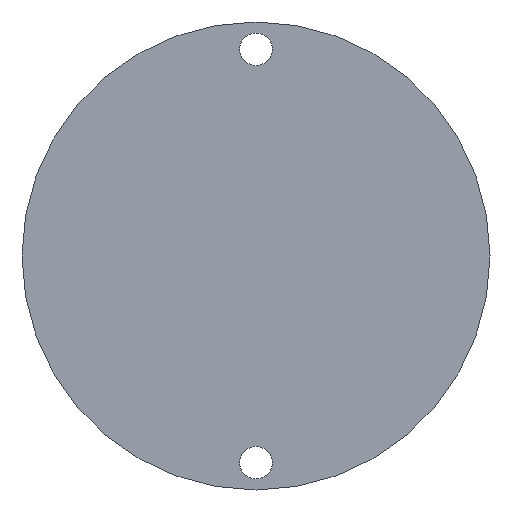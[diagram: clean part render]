
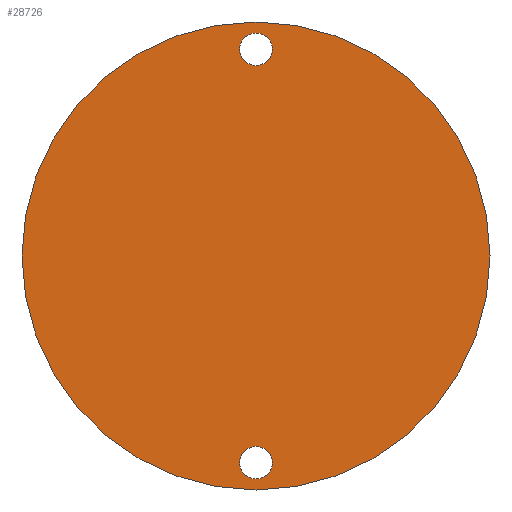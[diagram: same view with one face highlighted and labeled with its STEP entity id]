
A CAD part, front view. The second image highlights one B-rep face of the part: STEP entity #28726.
In plain terms, the highlighted planar face has unit normal (0, -1, 0).
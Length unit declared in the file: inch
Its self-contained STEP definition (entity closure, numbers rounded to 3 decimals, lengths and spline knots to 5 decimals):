
#1125 = CARTESIAN_POINT ( 'NONE',  ( 0., 0., -0.661 ) ) ;
#1134 = AXIS2_PLACEMENT_3D ( 'NONE', #17478, #12342, #2621 ) ;
#1136 = ORIENTED_EDGE ( 'NONE', *, *, #26322, .F. ) ;
#1317 = DIRECTION ( 'NONE',  ( 0., 1., 0. ) ) ;
#1377 = EDGE_CURVE ( 'NONE', #14071, #26169, #10197, .T. ) ;
#1479 = CARTESIAN_POINT ( 'NONE',  ( 0., 0., 0. ) ) ;
#1589 = EDGE_LOOP ( 'NONE', ( #28186, #14532 ) ) ;
#2621 = DIRECTION ( 'NONE',  ( 0., 0., 1. ) ) ;
#3469 = EDGE_CURVE ( 'NONE', #11737, #9586, #23980, .T. ) ;
#4008 = CARTESIAN_POINT ( 'NONE',  ( 0., 0., 0.661 ) ) ;
#5205 = AXIS2_PLACEMENT_3D ( 'NONE', #28307, #16788, #24097 ) ;
#5343 = DIRECTION ( 'NONE',  ( 0., 1., 0. ) ) ;
#5407 = DIRECTION ( 'NONE',  ( 0., 1., 0. ) ) ;
#6944 = EDGE_CURVE ( 'NONE', #28716, #9890, #30555, .T. ) ;
#7467 = DIRECTION ( 'NONE',  ( 0., 0., 1. ) ) ;
#8230 = CARTESIAN_POINT ( 'NONE',  ( 0., 0., -0.81225 ) ) ;
#8410 = AXIS2_PLACEMENT_3D ( 'NONE', #23511, #25859, #30531 ) ;
#9048 = AXIS2_PLACEMENT_3D ( 'NONE', #19493, #5407, #7467 ) ;
#9586 = VERTEX_POINT ( 'NONE', #17614 ) ;
#9890 = VERTEX_POINT ( 'NONE', #19458 ) ;
#10197 = CIRCLE ( 'NONE', #14179, 0.0565 ) ;
#10858 = DIRECTION ( 'NONE',  ( 0., 1., 0. ) ) ;
#11011 = CARTESIAN_POINT ( 'NONE',  ( 0., 0., -0.7175 ) ) ;
#11737 = VERTEX_POINT ( 'NONE', #4008 ) ;
#12342 = DIRECTION ( 'NONE',  ( 0., 1., 0. ) ) ;
#12504 = ORIENTED_EDGE ( 'NONE', *, *, #3469, .T. ) ;
#13533 = PLANE ( 'NONE',  #19979 ) ;
#14071 = VERTEX_POINT ( 'NONE', #22751 ) ;
#14179 = AXIS2_PLACEMENT_3D ( 'NONE', #26727, #5343, #24394 ) ;
#14532 = ORIENTED_EDGE ( 'NONE', *, *, #1377, .T. ) ;
#14832 = ORIENTED_EDGE ( 'NONE', *, *, #17490, .T. ) ;
#15691 = DIRECTION ( 'NONE',  ( 0., 0., 1. ) ) ;
#16416 = CIRCLE ( 'NONE', #26349, 0.0565 ) ;
#16788 = DIRECTION ( 'NONE',  ( 0., 1., 0. ) ) ;
#17478 = CARTESIAN_POINT ( 'NONE',  ( 0., 0., 0. ) ) ;
#17490 = EDGE_CURVE ( 'NONE', #9586, #11737, #25164, .T. ) ;
#17614 = CARTESIAN_POINT ( 'NONE',  ( 0., 0., 0.774 ) ) ;
#18231 = DIRECTION ( 'NONE',  ( 1., 0., 0. ) ) ;
#18706 = EDGE_LOOP ( 'NONE', ( #23177, #1136 ) ) ;
#19458 = CARTESIAN_POINT ( 'NONE',  ( 0., 0., 0.81225 ) ) ;
#19493 = CARTESIAN_POINT ( 'NONE',  ( 0., 0., 0.7175 ) ) ;
#19979 = AXIS2_PLACEMENT_3D ( 'NONE', #1479, #1317, #18231 ) ;
#20411 = FACE_BOUND ( 'NONE', #1589, .T. ) ;
#20566 = FACE_OUTER_BOUND ( 'NONE', #18706, .T. ) ;
#21864 = CIRCLE ( 'NONE', #8410, 0.81225 ) ;
#22751 = CARTESIAN_POINT ( 'NONE',  ( 0., 0., -0.774 ) ) ;
#23177 = ORIENTED_EDGE ( 'NONE', *, *, #6944, .F. ) ;
#23420 = EDGE_LOOP ( 'NONE', ( #14832, #12504 ) ) ;
#23511 = CARTESIAN_POINT ( 'NONE',  ( 0., 0., 0. ) ) ;
#23980 = CIRCLE ( 'NONE', #9048, 0.0565 ) ;
#24097 = DIRECTION ( 'NONE',  ( 0., 0., 1. ) ) ;
#24162 = EDGE_CURVE ( 'NONE', #26169, #14071, #16416, .T. ) ;
#24394 = DIRECTION ( 'NONE',  ( 0., 0., 1. ) ) ;
#25164 = CIRCLE ( 'NONE', #5205, 0.0565 ) ;
#25859 = DIRECTION ( 'NONE',  ( 0., 1., 0. ) ) ;
#26169 = VERTEX_POINT ( 'NONE', #1125 ) ;
#26322 = EDGE_CURVE ( 'NONE', #9890, #28716, #21864, .T. ) ;
#26349 = AXIS2_PLACEMENT_3D ( 'NONE', #11011, #10858, #15691 ) ;
#26727 = CARTESIAN_POINT ( 'NONE',  ( 0., 0., -0.7175 ) ) ;
#27403 = FACE_BOUND ( 'NONE', #23420, .T. ) ;
#28186 = ORIENTED_EDGE ( 'NONE', *, *, #24162, .T. ) ;
#28307 = CARTESIAN_POINT ( 'NONE',  ( 0., 0., 0.7175 ) ) ;
#28716 = VERTEX_POINT ( 'NONE', #8230 ) ;
#28726 = ADVANCED_FACE ( 'NONE', ( #20411, #27403, #20566 ), #13533, .F. ) ;
#30531 = DIRECTION ( 'NONE',  ( 0., 0., 1. ) ) ;
#30555 = CIRCLE ( 'NONE', #1134, 0.81225 ) ;
